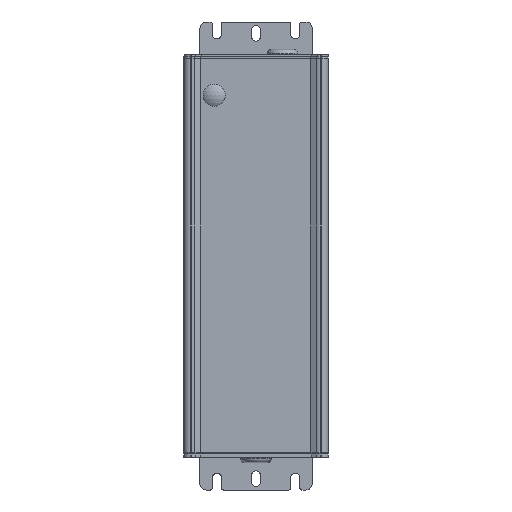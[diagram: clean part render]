
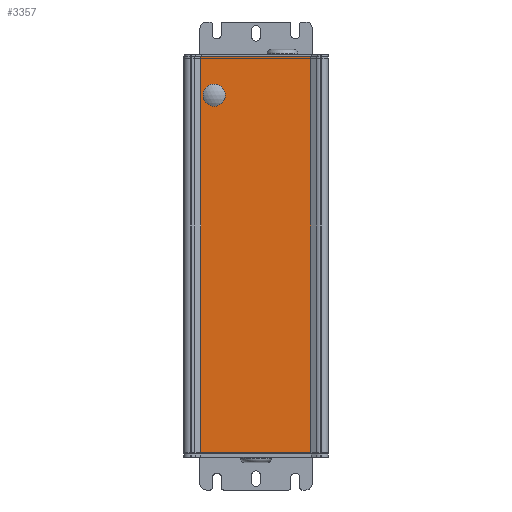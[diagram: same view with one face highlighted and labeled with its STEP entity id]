
A CAD part, left-side view. The second image highlights one B-rep face of the part: STEP entity #3357.
In plain terms, the highlighted planar face has unit normal (-1, 0, 0).
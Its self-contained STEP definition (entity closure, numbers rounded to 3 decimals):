
#3018=CARTESIAN_POINT('',(1767.992,-2404.464,169.95));
#3019=VERTEX_POINT('',#3018);
#3020=CARTESIAN_POINT('',(1767.992,-2404.464,164.75));
#3021=DIRECTION('',(1.0,0.0,0.0));
#3022=DIRECTION('',(0.0,0.0,1.0));
#3023=AXIS2_PLACEMENT_3D('',#3020,#3021,#3022);
#3024=CIRCLE('',#3023,5.2);
#3025=EDGE_CURVE('',#3019,#3019,#3024,.T.);
#3298=CARTESIAN_POINT('',(1767.992,-2398.164,-3.8));
#3299=VERTEX_POINT('',#3298);
#3306=CARTESIAN_POINT('',(1767.992,-2398.164,183.0));
#3307=VERTEX_POINT('',#3306);
#3308=CARTESIAN_POINT('',(1767.992,-2398.164,-3.8));
#3309=DIRECTION('',(0.0,0.0,1.0));
#3310=VECTOR('',#3309,186.8);
#3311=LINE('',#3308,#3310);
#3312=EDGE_CURVE('',#3299,#3307,#3311,.T.);
#3324=CARTESIAN_POINT('',(1767.992,-2450.164,0.0));
#3325=DIRECTION('',(-1.0,0.0,0.0));
#3326=DIRECTION('',(0.0,0.0,1.0));
#3327=AXIS2_PLACEMENT_3D('',#3324,#3325,#3326);
#3328=PLANE('',#3327);
#3329=CARTESIAN_POINT('',(1767.992,-2450.164,-3.8));
#3330=VERTEX_POINT('',#3329);
#3331=CARTESIAN_POINT('',(1767.992,-2450.164,-3.8));
#3332=DIRECTION('',(0.0,1.0,0.0));
#3333=VECTOR('',#3332,52.);
#3334=LINE('',#3331,#3333);
#3335=EDGE_CURVE('',#3330,#3299,#3334,.T.);
#3336=ORIENTED_EDGE('',*,*,#3335,.F.);
#3337=CARTESIAN_POINT('',(1767.992,-2450.164,183.0));
#3338=VERTEX_POINT('',#3337);
#3339=CARTESIAN_POINT('',(1767.992,-2450.164,-3.8));
#3340=DIRECTION('',(0.0,0.0,1.0));
#3341=VECTOR('',#3340,186.8);
#3342=LINE('',#3339,#3341);
#3343=EDGE_CURVE('',#3330,#3338,#3342,.T.);
#3344=ORIENTED_EDGE('',*,*,#3343,.T.);
#3345=CARTESIAN_POINT('',(1767.992,-2450.164,183.0));
#3346=DIRECTION('',(0.0,1.0,0.0));
#3347=VECTOR('',#3346,52.);
#3348=LINE('',#3345,#3347);
#3349=EDGE_CURVE('',#3338,#3307,#3348,.T.);
#3350=ORIENTED_EDGE('',*,*,#3349,.T.);
#3351=ORIENTED_EDGE('',*,*,#3312,.F.);
#3352=EDGE_LOOP('',(#3336,#3344,#3350,#3351));
#3353=FACE_OUTER_BOUND('',#3352,.T.);
#3354=ORIENTED_EDGE('',*,*,#3025,.T.);
#3355=EDGE_LOOP('',(#3354));
#3356=FACE_BOUND('',#3355,.T.);
#3357=ADVANCED_FACE('',(#3353,#3356),#3328,.T.);
